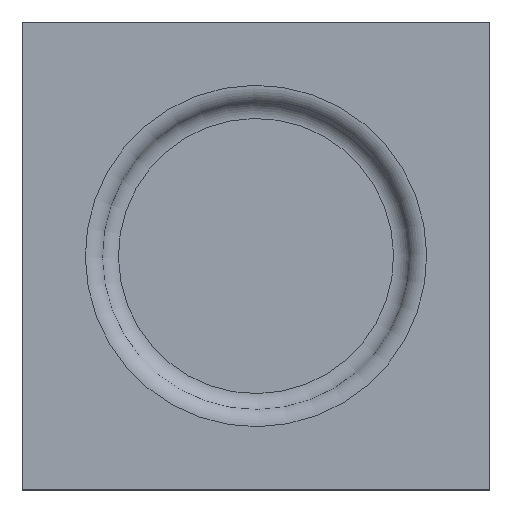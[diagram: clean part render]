
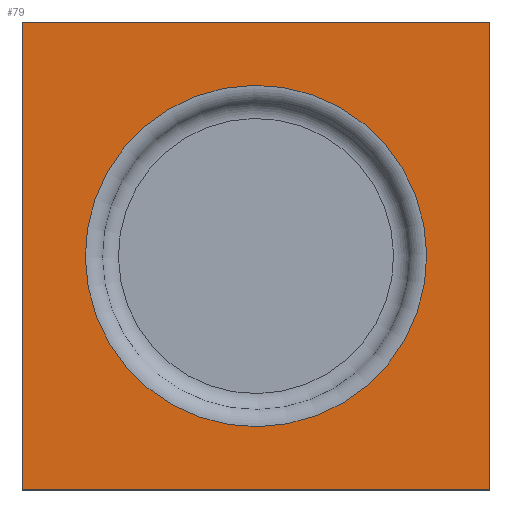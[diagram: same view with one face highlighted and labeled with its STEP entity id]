
A CAD part, top view. The second image highlights one B-rep face of the part: STEP entity #79.
In plain terms, the highlighted planar face has unit normal (0, 0, 1).
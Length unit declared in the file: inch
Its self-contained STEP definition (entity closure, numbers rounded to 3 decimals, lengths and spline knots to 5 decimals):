
#79=ADVANCED_FACE('',(#96,#97),#98,.T.);
#96=FACE_BOUND('',#126,.T.);
#97=FACE_OUTER_BOUND('',#127,.T.);
#98=PLANE('',#128);
#126=EDGE_LOOP('',(#170));
#127=EDGE_LOOP('',(#171,#172,#173,#174));
#128=AXIS2_PLACEMENT_3D('',#175,#176,#177);
#170=ORIENTED_EDGE('',*,*,#229,.T.);
#171=ORIENTED_EDGE('',*,*,#223,.T.);
#172=ORIENTED_EDGE('',*,*,#230,.T.);
#173=ORIENTED_EDGE('',*,*,#231,.T.);
#174=ORIENTED_EDGE('',*,*,#226,.T.);
#175=CARTESIAN_POINT('',(17.46063,13.50394,0.06));
#176=DIRECTION('',(0.0,-0.0,1.0));
#177=DIRECTION('',(0.,1.0,0.0));
#223=EDGE_CURVE('',#245,#242,#246,.T.);
#226=EDGE_CURVE('',#250,#245,#251,.T.);
#229=EDGE_CURVE('',#255,#255,#256,.F.);
#230=EDGE_CURVE('',#242,#257,#258,.T.);
#231=EDGE_CURVE('',#257,#250,#259,.T.);
#242=VERTEX_POINT('',#274);
#245=VERTEX_POINT('',#278);
#246=LINE('',#279,#280);
#250=VERTEX_POINT('',#286);
#251=LINE('',#287,#288);
#255=VERTEX_POINT('',#294);
#256=CIRCLE('',#295,1.09438);
#257=VERTEX_POINT('',#296);
#258=LINE('',#297,#298);
#259=LINE('',#299,#300);
#274=CARTESIAN_POINT('',(-8.73622,9.5,0.06));
#278=CARTESIAN_POINT('',(-8.73622,6.5,0.06));
#279=CARTESIAN_POINT('',(-8.73622,98974.4013,0.06));
#280=VECTOR('',#321,1.0);
#286=CARTESIAN_POINT('',(-11.73622,6.5,0.06));
#287=CARTESIAN_POINT('',(267978.17899,6.5,0.06));
#288=VECTOR('',#324,1.0);
#294=CARTESIAN_POINT('',(-10.25029,9.09429,0.06));
#295=AXIS2_PLACEMENT_3D('',#327,#328,#329);
#296=CARTESIAN_POINT('',(-11.73622,9.5,0.06));
#297=CARTESIAN_POINT('',(286058.73379,9.5,0.06));
#298=VECTOR('',#330,1.0);
#299=CARTESIAN_POINT('',(-11.73622,102000.4474,0.06));
#300=VECTOR('',#331,1.0);
#321=DIRECTION('',(0.0,1.0,0.0));
#324=DIRECTION('',(1.0,0.0,0.0));
#327=CARTESIAN_POINT('',(-10.23622,8.0,0.06));
#328=DIRECTION('',(0.0,0.0,1.0));
#329=DIRECTION('',(-0.013,1.,0.0));
#330=DIRECTION('',(-1.0,0.0,0.0));
#331=DIRECTION('',(0.0,-1.0,0.0));
